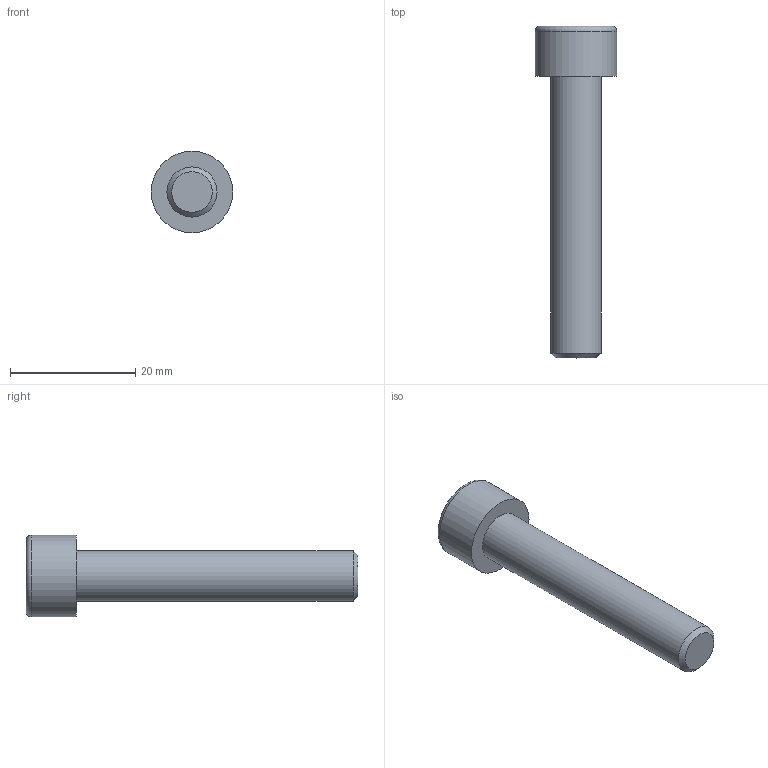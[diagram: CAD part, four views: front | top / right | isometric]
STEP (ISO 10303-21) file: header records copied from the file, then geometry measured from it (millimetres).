
FILE_DESCRIPTION(/* description */ (''),/* implementation_level */ '2;1');
FILE_NAME(/* name */ 'C:\Users\D\Documents\Inventor\各種小物\JIS\JIS B 1176 六角穴付きボルト\M8x45.stp',/* time_stamp */ '2022-05-09T18:52:28+09:00',/* author */ ('D'),/* organization */ (''),/* preprocessor_version */ 'ST-DEVELOPER v18',/* originating_system */ 'Autodesk Inventor 2020',/* authorisation */ '');
FILE_SCHEMA (('AUTOMOTIVE_DESIGN { 1 0 10303 214 3 1 1 }'));
Length unit declared in the file: millimetre
Products named in the file (1): M1.6x2.5
Bounding box: 13 x 53 x 13 mm (x, y, z)
Volume: 3162.2 mm3; surface area: 1788.4 mm2
Topology: 1 solids, 1 shells, 14 faces, 33 edges, 22 vertices
Faces by surface type: plane 9, cone 2, cylinder 2, torus 1
Full cylindrical faces by diameter (mm): 8 x1, 13 x1
Entity records: 435 total; most frequent: CARTESIAN_POINT 83, ORIENTED_EDGE 64, DIRECTION 64, EDGE_CURVE 32, AXIS2_PLACEMENT_3D 24, VERTEX_POINT 22, EDGE_LOOP 16, LINE 16
